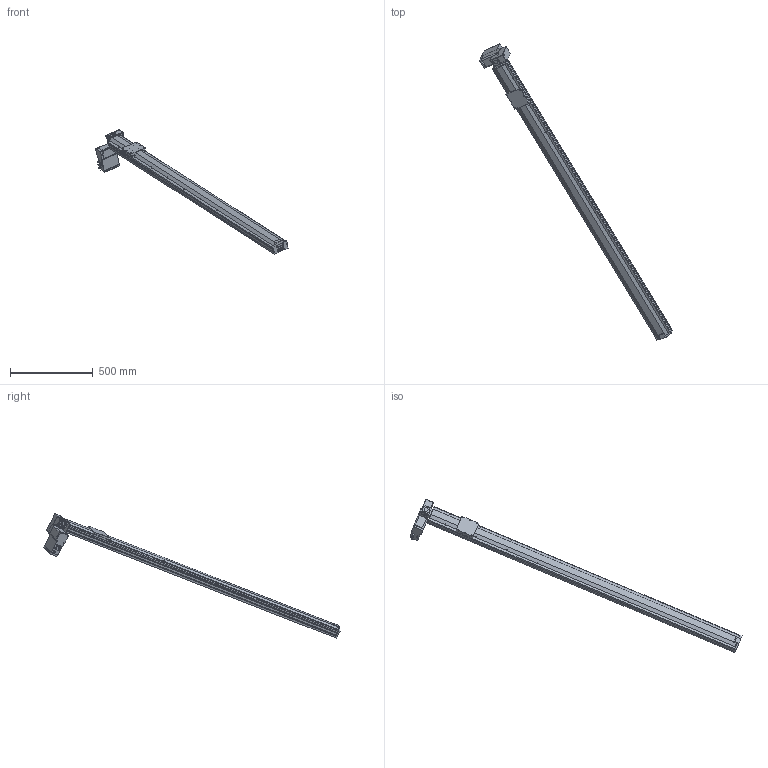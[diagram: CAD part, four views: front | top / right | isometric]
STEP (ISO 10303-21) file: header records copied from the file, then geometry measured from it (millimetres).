
FILE_DESCRIPTION (( 'STEP AP203' ), '1' );
FILE_NAME ('S10 CBH LU S2000.STEP', '2012-10-01T07:04:06', ( '' ), ( '' ), 'SwSTEP 2.0', 'SolidWorks 2010', '' );
FILE_SCHEMA (( 'CONFIG_CONTROL_DESIGN' ));
Length unit declared in the file: millimetre
Products named in the file (14): S10 CBH LU S2000; plaque de bout s10_Default; Plaque racord_Default; renvoi LH_Default; Vis M5 L16-2_Default_1; vis M5 L12_Default; palette tbh; MOTEUR GMI 61 ; axe 2000; cache t皻e_Default; embout; Cvis M5 L30_Default; vis M5 L5_Default; cache t皻e axe_Default
Assembly tree (24 placements, depth 2):
  S10 CBH LU S2000
    vis M5 L12_Default  x4
    embout
    axe 2000
    cache t皻e axe_Default
    Vis M5 L16-2_Default_1  x4
    Cvis M5 L30_Default  x2
    vis M5 L5_Default  x4
    MOTEUR GMI 61 
    cache t皻e_Default  x2
    renvoi LH_Default
    Plaque racord_Default
    palette tbh
    plaque de bout s10_Default
Bounding box: 1160.94 x 1783.93 x 750.28 mm (x, y, z)
Volume: 11538876.4 mm3; surface area: 1153711.7 mm2
Topology: 24 solids, 24 shells, 1095 faces, 2668 edges, 1654 vertices
Faces by surface type: plane 542, cylinder 404, cone 102, bspline 40, torus 7
Entity records: 27667 total; most frequent: CARTESIAN_POINT 5170, DIRECTION 4451, ORIENTED_EDGE 4152, EDGE_CURVE 2076, AXIS2_PLACEMENT_3D 1585, VERTEX_POINT 1342, LINE 1281, VECTOR 1281
